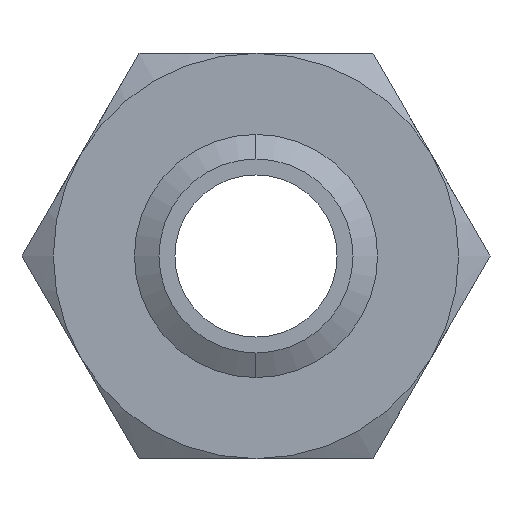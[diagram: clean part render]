
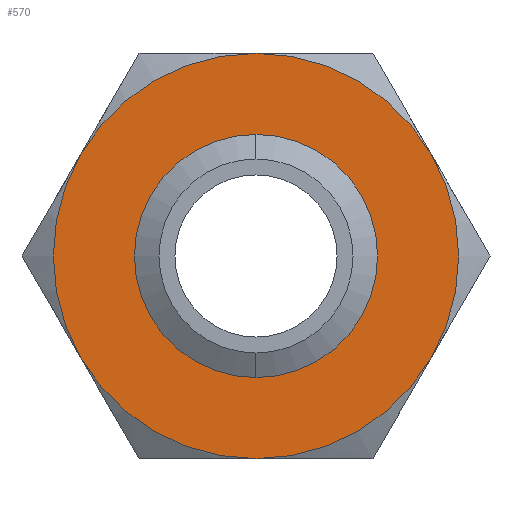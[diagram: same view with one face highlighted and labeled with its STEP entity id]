
A CAD part, front view. The second image highlights one B-rep face of the part: STEP entity #570.
In plain terms, the highlighted planar face has unit normal (0, -1, 0).
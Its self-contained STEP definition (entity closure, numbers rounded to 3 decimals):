
#75 = VERTEX_POINT ( 'NONE', #316 ) ;
#76 = VERTEX_POINT ( 'NONE', #315 ) ;
#85 = EDGE_CURVE ( 'NONE', #75, #76, #305, .T. ) ;
#101 = ORIENTED_EDGE ( 'NONE', *, *, #85, .F. ) ;
#123 = ORIENTED_EDGE ( 'NONE', *, *, #125, .F. ) ;
#125 = EDGE_CURVE ( 'NONE', #76, #75, #414, .T. ) ;
#126 = EDGE_LOOP ( 'NONE', ( #101, #123 ) ) ;
#127 = EDGE_CURVE ( 'NONE', #139, #135, #403, .T. ) ;
#128 = ORIENTED_EDGE ( 'NONE', *, *, #131, .F. ) ;
#129 = VERTEX_POINT ( 'NONE', #398 ) ;
#130 = ORIENTED_EDGE ( 'NONE', *, *, #133, .F. ) ;
#131 = EDGE_CURVE ( 'NONE', #132, #138, #396, .T. ) ;
#132 = VERTEX_POINT ( 'NONE', #460 ) ;
#133 = EDGE_CURVE ( 'NONE', #129, #132, #459, .T. ) ;
#134 = ORIENTED_EDGE ( 'NONE', *, *, #137, .F. ) ;
#135 = VERTEX_POINT ( 'NONE', #454 ) ;
#136 = ORIENTED_EDGE ( 'NONE', *, *, #127, .F. ) ;
#137 = EDGE_CURVE ( 'NONE', #135, #129, #453, .T. ) ;
#138 = VERTEX_POINT ( 'NONE', #448 ) ;
#139 = VERTEX_POINT ( 'NONE', #447 ) ;
#140 = ORIENTED_EDGE ( 'NONE', *, *, #141, .F. ) ;
#141 = EDGE_CURVE ( 'NONE', #138, #142, #446, .T. ) ;
#142 = VERTEX_POINT ( 'NONE', #441 ) ;
#298 = DIRECTION ( 'NONE',  ( 0., -1., 0. ) ) ;
#299 = CARTESIAN_POINT ( 'NONE',  ( 0., 0., 0. ) ) ;
#300 = AXIS2_PLACEMENT_3D ( 'NONE', #299, #298, #361 ) ;
#305 = CIRCLE ( 'NONE', #300, 11.969 ) ;
#315 = CARTESIAN_POINT ( 'NONE',  ( 0., 0., 11.969 ) ) ;
#316 = CARTESIAN_POINT ( 'NONE',  ( 0., 0., -11.969 ) ) ;
#361 = DIRECTION ( 'NONE',  ( 0., 0., -1. ) ) ;
#392 = DIRECTION ( 'NONE',  ( 0., 0., 1. ) ) ;
#393 = DIRECTION ( 'NONE',  ( 0., 1., 0. ) ) ;
#394 = CARTESIAN_POINT ( 'NONE',  ( 0., 0., 0. ) ) ;
#395 = AXIS2_PLACEMENT_3D ( 'NONE', #394, #393, #392 ) ;
#396 = CIRCLE ( 'NONE', #395, 25. ) ;
#397 = EDGE_CURVE ( 'NONE', #142, #139, #637, .T. ) ;
#398 = CARTESIAN_POINT ( 'NONE',  ( 0., 0., -25. ) ) ;
#399 = DIRECTION ( 'NONE',  ( 0., 0., 1. ) ) ;
#400 = DIRECTION ( 'NONE',  ( 0., 1., 0. ) ) ;
#401 = CARTESIAN_POINT ( 'NONE',  ( 0., 0., 0. ) ) ;
#402 = AXIS2_PLACEMENT_3D ( 'NONE', #401, #400, #399 ) ;
#403 = CIRCLE ( 'NONE', #402, 25. ) ;
#404 = EDGE_LOOP ( 'NONE', ( #407, #140, #128, #130, #134, #136 ) ) ;
#406 = DIRECTION ( 'NONE',  ( 0., 0., -1. ) ) ;
#407 = ORIENTED_EDGE ( 'NONE', *, *, #397, .F. ) ;
#408 = DIRECTION ( 'NONE',  ( 0., -1., 0. ) ) ;
#409 = CARTESIAN_POINT ( 'NONE',  ( 0., 0., 0. ) ) ;
#410 = AXIS2_PLACEMENT_3D ( 'NONE', #409, #408, #406 ) ;
#414 = CIRCLE ( 'NONE', #410, 11.969 ) ;
#441 = CARTESIAN_POINT ( 'NONE',  ( 0., 0., 25. ) ) ;
#442 = DIRECTION ( 'NONE',  ( 0., 0., 1. ) ) ;
#443 = DIRECTION ( 'NONE',  ( 0., 1., 0. ) ) ;
#444 = CARTESIAN_POINT ( 'NONE',  ( 0., 0., 0. ) ) ;
#445 = AXIS2_PLACEMENT_3D ( 'NONE', #444, #443, #442 ) ;
#446 = CIRCLE ( 'NONE', #445, 25. ) ;
#447 = CARTESIAN_POINT ( 'NONE',  ( 21.651, 0., 12.5 ) ) ;
#448 = CARTESIAN_POINT ( 'NONE',  ( -21.651, 0., 12.5 ) ) ;
#449 = DIRECTION ( 'NONE',  ( 0., 0., 1. ) ) ;
#450 = DIRECTION ( 'NONE',  ( 0., 1., 0. ) ) ;
#451 = CARTESIAN_POINT ( 'NONE',  ( 0., 0., 0. ) ) ;
#452 = AXIS2_PLACEMENT_3D ( 'NONE', #451, #450, #449 ) ;
#453 = CIRCLE ( 'NONE', #452, 25. ) ;
#454 = CARTESIAN_POINT ( 'NONE',  ( 21.651, 0., -12.5 ) ) ;
#455 = DIRECTION ( 'NONE',  ( 0., 0., 1. ) ) ;
#456 = DIRECTION ( 'NONE',  ( 0., 1., 0. ) ) ;
#457 = CARTESIAN_POINT ( 'NONE',  ( 0., 0., 0. ) ) ;
#458 = AXIS2_PLACEMENT_3D ( 'NONE', #457, #456, #455 ) ;
#459 = CIRCLE ( 'NONE', #458, 25. ) ;
#460 = CARTESIAN_POINT ( 'NONE',  ( -21.651, 0., -12.5 ) ) ;
#570 = ADVANCED_FACE ( 'NONE', ( #626, #625 ), #624, .F. ) ;
#619 = DIRECTION ( 'NONE',  ( 0., 0., 1. ) ) ;
#620 = DIRECTION ( 'NONE',  ( 0., 1., 0. ) ) ;
#621 = CARTESIAN_POINT ( 'NONE',  ( 14.434, 0., -25. ) ) ;
#622 = AXIS2_PLACEMENT_3D ( 'NONE', #621, #620, #619 ) ;
#624 = PLANE ( 'NONE',  #622 ) ;
#625 = FACE_BOUND ( 'NONE', #126, .T. ) ;
#626 = FACE_OUTER_BOUND ( 'NONE', #404, .T. ) ;
#633 = DIRECTION ( 'NONE',  ( 0., 0., 1. ) ) ;
#634 = DIRECTION ( 'NONE',  ( 0., 1., 0. ) ) ;
#635 = CARTESIAN_POINT ( 'NONE',  ( 0., 0., 0. ) ) ;
#636 = AXIS2_PLACEMENT_3D ( 'NONE', #635, #634, #633 ) ;
#637 = CIRCLE ( 'NONE', #636, 25. ) ;
